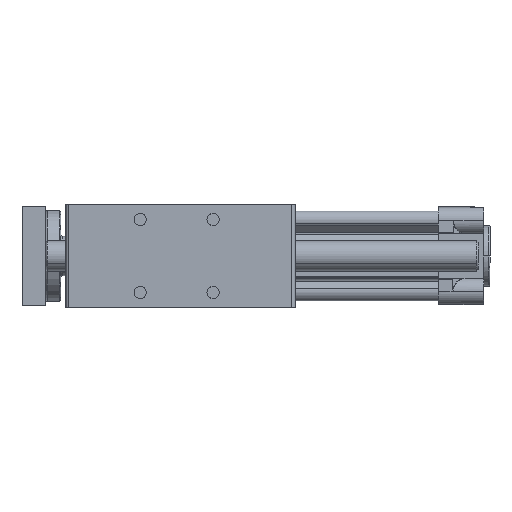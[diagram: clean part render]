
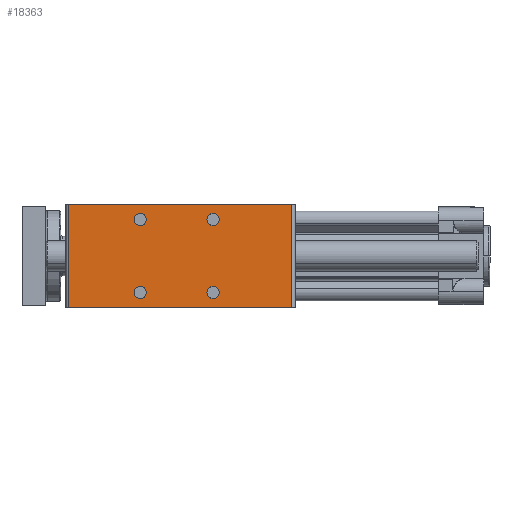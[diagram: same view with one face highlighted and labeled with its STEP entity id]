
A CAD part, left-side view. The second image highlights one B-rep face of the part: STEP entity #18363.
In plain terms, the highlighted planar face has unit normal (-1, 0, 0).
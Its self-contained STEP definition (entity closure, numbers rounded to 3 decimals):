
#139 = AXIS2_PLACEMENT_3D ( 'NONE', #24621, #6511, #27664 ) ;
#406 = CIRCLE ( 'NONE', #139, 4. ) ;
#996 = DIRECTION ( 'NONE',  ( 0., -1., 0. ) ) ;
#1067 = EDGE_LOOP ( 'NONE', ( #12504, #28390 ) ) ;
#1479 = CARTESIAN_POINT ( 'NONE',  ( 0., -93., 10.25 ) ) ;
#1598 = DIRECTION ( 'NONE',  ( 0., 1., 0. ) ) ;
#2091 = CARTESIAN_POINT ( 'NONE',  ( 0., -49., 58.25 ) ) ;
#2231 = DIRECTION ( 'NONE',  ( 0., -1., 0. ) ) ;
#2241 = EDGE_CURVE ( 'NONE', #3336, #25554, #24462, .T. ) ;
#3247 = AXIS2_PLACEMENT_3D ( 'NONE', #37241, #19100, #996 ) ;
#3336 = VERTEX_POINT ( 'NONE', #18412 ) ;
#3355 = EDGE_CURVE ( 'NONE', #27585, #18917, #4989, .T. ) ;
#3602 = CARTESIAN_POINT ( 'NONE',  ( 0., -45., 10.25 ) ) ;
#4011 = AXIS2_PLACEMENT_3D ( 'NONE', #16764, #7658, #19788 ) ;
#4194 = DIRECTION ( 'NONE',  ( 0., 0., -1. ) ) ;
#4989 = CIRCLE ( 'NONE', #24146, 4. ) ;
#5135 = DIRECTION ( 'NONE',  ( 0., -1., 0. ) ) ;
#5150 = DIRECTION ( 'NONE',  ( 0., 1., 0. ) ) ;
#5716 = EDGE_CURVE ( 'NONE', #16180, #11711, #12435, .T. ) ;
#5835 = VECTOR ( 'NONE', #37825, 1000. ) ;
#6403 = CARTESIAN_POINT ( 'NONE',  ( 0., -49., 58.25 ) ) ;
#6424 = DIRECTION ( 'NONE',  ( -1., 0., 0. ) ) ;
#6511 = DIRECTION ( 'NONE',  ( -1., 0., 0. ) ) ;
#6826 = ORIENTED_EDGE ( 'NONE', *, *, #24094, .F. ) ;
#7044 = CARTESIAN_POINT ( 'NONE',  ( 0., -97., 10.25 ) ) ;
#7368 = EDGE_LOOP ( 'NONE', ( #32488, #19257 ) ) ;
#7658 = DIRECTION ( 'NONE',  ( 1., 0., 0. ) ) ;
#8275 = EDGE_CURVE ( 'NONE', #11711, #16180, #18504, .T. ) ;
#8371 = VECTOR ( 'NONE', #27846, 1000. ) ;
#9434 = DIRECTION ( 'NONE',  ( 0., 1., 0. ) ) ;
#10037 = EDGE_CURVE ( 'NONE', #27650, #18257, #17702, .T. ) ;
#10079 = DIRECTION ( 'NONE',  ( 0., 1., 0. ) ) ;
#10438 = CIRCLE ( 'NONE', #3247, 4. ) ;
#10907 = CARTESIAN_POINT ( 'NONE',  ( 0., -45., 58.25 ) ) ;
#11711 = VERTEX_POINT ( 'NONE', #21993 ) ;
#12435 = CIRCLE ( 'NONE', #37124, 4. ) ;
#12504 = ORIENTED_EDGE ( 'NONE', *, *, #8275, .F. ) ;
#12739 = ORIENTED_EDGE ( 'NONE', *, *, #2241, .F. ) ;
#13161 = CARTESIAN_POINT ( 'NONE',  ( 0., -2., 68.5 ) ) ;
#13419 = ORIENTED_EDGE ( 'NONE', *, *, #35203, .F. ) ;
#13546 = FACE_BOUND ( 'NONE', #1067, .T. ) ;
#13625 = CARTESIAN_POINT ( 'NONE',  ( 0., -2., 0. ) ) ;
#13733 = PLANE ( 'NONE',  #4011 ) ;
#13958 = EDGE_LOOP ( 'NONE', ( #28845, #13419 ) ) ;
#14502 = FACE_BOUND ( 'NONE', #7368, .T. ) ;
#14801 = LINE ( 'NONE', #13625, #5835 ) ;
#16180 = VERTEX_POINT ( 'NONE', #1479 ) ;
#16764 = CARTESIAN_POINT ( 'NONE',  ( 0., -2., 68.5 ) ) ;
#17702 = CIRCLE ( 'NONE', #27653, 4. ) ;
#18257 = VERTEX_POINT ( 'NONE', #34356 ) ;
#18363 = ADVANCED_FACE ( 'NONE', ( #13546, #14502, #29613, #36733, #20623 ), #13733, .F. ) ;
#18412 = CARTESIAN_POINT ( 'NONE',  ( 0., -149., 68.5 ) ) ;
#18504 = CIRCLE ( 'NONE', #19449, 4. ) ;
#18739 = EDGE_CURVE ( 'NONE', #18257, #27650, #10438, .T. ) ;
#18917 = VERTEX_POINT ( 'NONE', #10907 ) ;
#19100 = DIRECTION ( 'NONE',  ( -1., 0., 0. ) ) ;
#19257 = ORIENTED_EDGE ( 'NONE', *, *, #28555, .F. ) ;
#19449 = AXIS2_PLACEMENT_3D ( 'NONE', #7044, #28189, #10079 ) ;
#19693 = DIRECTION ( 'NONE',  ( -1., 0., 0. ) ) ;
#19788 = DIRECTION ( 'NONE',  ( 0., 1., 0. ) ) ;
#20336 = DIRECTION ( 'NONE',  ( -1., 0., 0. ) ) ;
#20623 = FACE_OUTER_BOUND ( 'NONE', #22654, .T. ) ;
#21993 = CARTESIAN_POINT ( 'NONE',  ( 0., -101., 10.25 ) ) ;
#22089 = CARTESIAN_POINT ( 'NONE',  ( 0., -53., 58.25 ) ) ;
#22654 = EDGE_LOOP ( 'NONE', ( #38937, #12739, #6826, #26274 ) ) ;
#23246 = DIRECTION ( 'NONE',  ( -1., 0., 0. ) ) ;
#24094 = EDGE_CURVE ( 'NONE', #35119, #3336, #32850, .T. ) ;
#24146 = AXIS2_PLACEMENT_3D ( 'NONE', #6403, #27557, #9434 ) ;
#24462 = LINE ( 'NONE', #24927, #8371 ) ;
#24527 = CARTESIAN_POINT ( 'NONE',  ( 0., -97., 58.25 ) ) ;
#24621 = CARTESIAN_POINT ( 'NONE',  ( 0., -49., 10.25 ) ) ;
#24826 = VECTOR ( 'NONE', #5135, 1000. ) ;
#24927 = CARTESIAN_POINT ( 'NONE',  ( 0., -149., 68.5 ) ) ;
#24936 = CARTESIAN_POINT ( 'NONE',  ( 0., -149., 0. ) ) ;
#25554 = VERTEX_POINT ( 'NONE', #24936 ) ;
#26274 = ORIENTED_EDGE ( 'NONE', *, *, #30827, .T. ) ;
#26285 = CARTESIAN_POINT ( 'NONE',  ( 0., -2., 68.5 ) ) ;
#27106 = VERTEX_POINT ( 'NONE', #37599 ) ;
#27557 = DIRECTION ( 'NONE',  ( -1., 0., 0. ) ) ;
#27581 = DIRECTION ( 'NONE',  ( 0., -1., 0. ) ) ;
#27585 = VERTEX_POINT ( 'NONE', #22089 ) ;
#27650 = VERTEX_POINT ( 'NONE', #28573 ) ;
#27653 = AXIS2_PLACEMENT_3D ( 'NONE', #24527, #6424, #27581 ) ;
#27664 = DIRECTION ( 'NONE',  ( 0., -1., 0. ) ) ;
#27673 = AXIS2_PLACEMENT_3D ( 'NONE', #2091, #23246, #5150 ) ;
#27846 = DIRECTION ( 'NONE',  ( 0., 0., -1. ) ) ;
#28189 = DIRECTION ( 'NONE',  ( -1., 0., 0. ) ) ;
#28390 = ORIENTED_EDGE ( 'NONE', *, *, #5716, .F. ) ;
#28555 = EDGE_CURVE ( 'NONE', #34922, #33983, #406, .T. ) ;
#28573 = CARTESIAN_POINT ( 'NONE',  ( 0., -93., 58.25 ) ) ;
#28845 = ORIENTED_EDGE ( 'NONE', *, *, #3355, .F. ) ;
#29613 = FACE_BOUND ( 'NONE', #32203, .T. ) ;
#30827 = EDGE_CURVE ( 'NONE', #35119, #27106, #31525, .T. ) ;
#31525 = LINE ( 'NONE', #13161, #38615 ) ;
#31684 = ORIENTED_EDGE ( 'NONE', *, *, #18739, .F. ) ;
#31873 = CARTESIAN_POINT ( 'NONE',  ( 0., -2., 68.5 ) ) ;
#32203 = EDGE_LOOP ( 'NONE', ( #31684, #39209 ) ) ;
#32488 = ORIENTED_EDGE ( 'NONE', *, *, #34167, .F. ) ;
#32850 = LINE ( 'NONE', #26285, #24826 ) ;
#33983 = VERTEX_POINT ( 'NONE', #37316 ) ;
#34055 = EDGE_CURVE ( 'NONE', #27106, #25554, #14801, .T. ) ;
#34167 = EDGE_CURVE ( 'NONE', #33983, #34922, #35146, .T. ) ;
#34356 = CARTESIAN_POINT ( 'NONE',  ( 0., -101., 58.25 ) ) ;
#34922 = VERTEX_POINT ( 'NONE', #3602 ) ;
#35119 = VERTEX_POINT ( 'NONE', #31873 ) ;
#35146 = CIRCLE ( 'NONE', #36011, 4. ) ;
#35203 = EDGE_CURVE ( 'NONE', #18917, #27585, #35556, .T. ) ;
#35556 = CIRCLE ( 'NONE', #27673, 4. ) ;
#36011 = AXIS2_PLACEMENT_3D ( 'NONE', #38483, #20336, #2231 ) ;
#36733 = FACE_BOUND ( 'NONE', #13958, .T. ) ;
#37124 = AXIS2_PLACEMENT_3D ( 'NONE', #37840, #19693, #1598 ) ;
#37241 = CARTESIAN_POINT ( 'NONE',  ( 0., -97., 58.25 ) ) ;
#37316 = CARTESIAN_POINT ( 'NONE',  ( 0., -53., 10.25 ) ) ;
#37599 = CARTESIAN_POINT ( 'NONE',  ( 0., -2., 0. ) ) ;
#37825 = DIRECTION ( 'NONE',  ( 0., -1., 0. ) ) ;
#37840 = CARTESIAN_POINT ( 'NONE',  ( 0., -97., 10.25 ) ) ;
#38483 = CARTESIAN_POINT ( 'NONE',  ( 0., -49., 10.25 ) ) ;
#38615 = VECTOR ( 'NONE', #4194, 1000. ) ;
#38937 = ORIENTED_EDGE ( 'NONE', *, *, #34055, .T. ) ;
#39209 = ORIENTED_EDGE ( 'NONE', *, *, #10037, .F. ) ;
